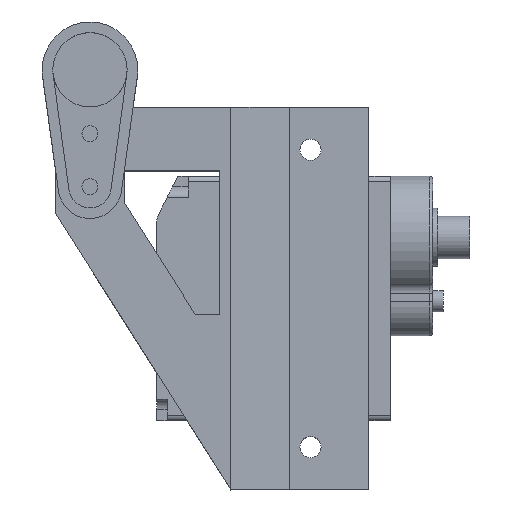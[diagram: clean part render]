
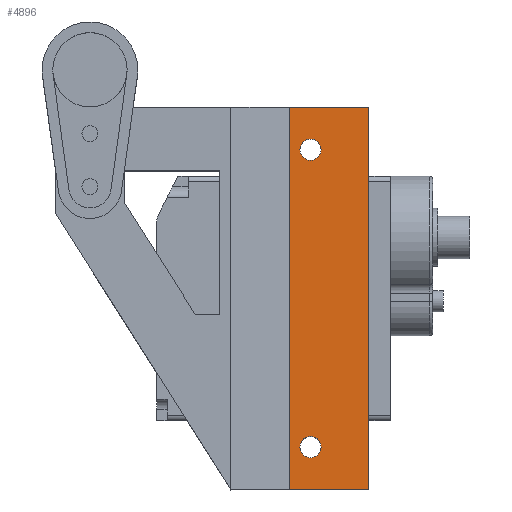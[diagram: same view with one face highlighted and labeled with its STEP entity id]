
A CAD part, top view. The second image highlights one B-rep face of the part: STEP entity #4896.
In plain terms, the highlighted planar face has unit normal (0, 0, 1) as drawn and (-1, 0, 0) by its records, which use the part's own axes.
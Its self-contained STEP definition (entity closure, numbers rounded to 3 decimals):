
#100 = PLANE ( 'NONE',  #989 ) ;
#116 = AXIS2_PLACEMENT_3D ( 'NONE', #945, #586, #4630 ) ;
#241 = VERTEX_POINT ( 'NONE', #2823 ) ;
#260 = CARTESIAN_POINT ( 'NONE',  ( -9.5, 2.5, 18. ) ) ;
#328 = CARTESIAN_POINT ( 'NONE',  ( -9.5, 5.5, -14. ) ) ;
#520 = DIRECTION ( 'NONE',  ( 0., 1., 0. ) ) ;
#586 = DIRECTION ( 'NONE',  ( 1., 0., 0. ) ) ;
#613 = AXIS2_PLACEMENT_3D ( 'NONE', #4581, #2461, #520 ) ;
#689 = ORIENTED_EDGE ( 'NONE', *, *, #5230, .F. ) ;
#769 = CARTESIAN_POINT ( 'NONE',  ( -9.5, 10., 18. ) ) ;
#773 = CARTESIAN_POINT ( 'NONE',  ( -9.5, 3.5, -14. ) ) ;
#822 = CARTESIAN_POINT ( 'NONE',  ( -9.5, 10., 18. ) ) ;
#846 = AXIS2_PLACEMENT_3D ( 'NONE', #865, #1770, #3995 ) ;
#865 = CARTESIAN_POINT ( 'NONE',  ( -9.5, 4.5, 14. ) ) ;
#871 = DIRECTION ( 'NONE',  ( 0., 0., -1. ) ) ;
#918 = ORIENTED_EDGE ( 'NONE', *, *, #2677, .F. ) ;
#921 = CARTESIAN_POINT ( 'NONE',  ( -9.5, 3.5, 14. ) ) ;
#941 = VERTEX_POINT ( 'NONE', #2638 ) ;
#945 = CARTESIAN_POINT ( 'NONE',  ( -9.5, 4.5, 14. ) ) ;
#968 = EDGE_CURVE ( 'NONE', #941, #2597, #3435, .T. ) ;
#989 = AXIS2_PLACEMENT_3D ( 'NONE', #1104, #1930, #3743 ) ;
#1048 = LINE ( 'NONE', #3413, #4499 ) ;
#1104 = CARTESIAN_POINT ( 'NONE',  ( -9.5, 10., 18. ) ) ;
#1122 = VERTEX_POINT ( 'NONE', #2992 ) ;
#1213 = EDGE_CURVE ( 'NONE', #2815, #4622, #5349, .T. ) ;
#1457 = CIRCLE ( 'NONE', #116, 1. ) ;
#1470 = VERTEX_POINT ( 'NONE', #4801 ) ;
#1623 = ORIENTED_EDGE ( 'NONE', *, *, #5444, .T. ) ;
#1710 = EDGE_CURVE ( 'NONE', #2597, #941, #1457, .T. ) ;
#1770 = DIRECTION ( 'NONE',  ( 1., 0., 0. ) ) ;
#1930 = DIRECTION ( 'NONE',  ( 1., 0., 0. ) ) ;
#1989 = ORIENTED_EDGE ( 'NONE', *, *, #968, .T. ) ;
#2300 = AXIS2_PLACEMENT_3D ( 'NONE', #3441, #5223, #3501 ) ;
#2358 = EDGE_LOOP ( 'NONE', ( #1989, #3938 ) ) ;
#2375 = FACE_BOUND ( 'NONE', #2358, .T. ) ;
#2461 = DIRECTION ( 'NONE',  ( -1., 0., 0. ) ) ;
#2597 = VERTEX_POINT ( 'NONE', #921 ) ;
#2638 = CARTESIAN_POINT ( 'NONE',  ( -9.5, 5.5, 14. ) ) ;
#2677 = EDGE_CURVE ( 'NONE', #4094, #1122, #1048, .T. ) ;
#2815 = VERTEX_POINT ( 'NONE', #773 ) ;
#2823 = CARTESIAN_POINT ( 'NONE',  ( -9.5, 10., 18. ) ) ;
#2833 = LINE ( 'NONE', #5539, #3865 ) ;
#2992 = CARTESIAN_POINT ( 'NONE',  ( -9.5, 2.5, -18. ) ) ;
#3077 = EDGE_LOOP ( 'NONE', ( #1623, #918, #5700, #5519 ) ) ;
#3115 = EDGE_LOOP ( 'NONE', ( #689, #4491 ) ) ;
#3357 = EDGE_CURVE ( 'NONE', #241, #4094, #4824, .T. ) ;
#3413 = CARTESIAN_POINT ( 'NONE',  ( -9.5, 2.5, 18. ) ) ;
#3435 = CIRCLE ( 'NONE', #846, 1. ) ;
#3441 = CARTESIAN_POINT ( 'NONE',  ( -9.5, 4.5, -14. ) ) ;
#3482 = VECTOR ( 'NONE', #871, 1000. ) ;
#3501 = DIRECTION ( 'NONE',  ( 0., 1., 0. ) ) ;
#3743 = DIRECTION ( 'NONE',  ( 0., 1., 0. ) ) ;
#3865 = VECTOR ( 'NONE', #4169, 1000. ) ;
#3938 = ORIENTED_EDGE ( 'NONE', *, *, #1710, .T. ) ;
#3995 = DIRECTION ( 'NONE',  ( 0., 1., 0. ) ) ;
#4094 = VERTEX_POINT ( 'NONE', #260 ) ;
#4169 = DIRECTION ( 'NONE',  ( 0., -1., 0. ) ) ;
#4395 = LINE ( 'NONE', #822, #3482 ) ;
#4396 = DIRECTION ( 'NONE',  ( 0., -1., 0. ) ) ;
#4397 = VECTOR ( 'NONE', #4396, 1000. ) ;
#4491 = ORIENTED_EDGE ( 'NONE', *, *, #1213, .F. ) ;
#4499 = VECTOR ( 'NONE', #5220, 1000. ) ;
#4581 = CARTESIAN_POINT ( 'NONE',  ( -9.5, 4.5, -14. ) ) ;
#4622 = VERTEX_POINT ( 'NONE', #328 ) ;
#4628 = FACE_BOUND ( 'NONE', #3115, .T. ) ;
#4630 = DIRECTION ( 'NONE',  ( 0., 1., 0. ) ) ;
#4801 = CARTESIAN_POINT ( 'NONE',  ( -9.5, 10., -18. ) ) ;
#4824 = LINE ( 'NONE', #769, #4397 ) ;
#4896 = ADVANCED_FACE ( 'NONE', ( #4628, #2375, #5175 ), #100, .F. ) ;
#5175 = FACE_OUTER_BOUND ( 'NONE', #3077, .T. ) ;
#5220 = DIRECTION ( 'NONE',  ( 0., 0., -1. ) ) ;
#5223 = DIRECTION ( 'NONE',  ( -1., 0., 0. ) ) ;
#5230 = EDGE_CURVE ( 'NONE', #4622, #2815, #5849, .T. ) ;
#5349 = CIRCLE ( 'NONE', #2300, 1. ) ;
#5444 = EDGE_CURVE ( 'NONE', #1470, #1122, #2833, .T. ) ;
#5519 = ORIENTED_EDGE ( 'NONE', *, *, #5790, .T. ) ;
#5539 = CARTESIAN_POINT ( 'NONE',  ( -9.5, 10., -18. ) ) ;
#5700 = ORIENTED_EDGE ( 'NONE', *, *, #3357, .F. ) ;
#5790 = EDGE_CURVE ( 'NONE', #241, #1470, #4395, .T. ) ;
#5849 = CIRCLE ( 'NONE', #613, 1. ) ;
